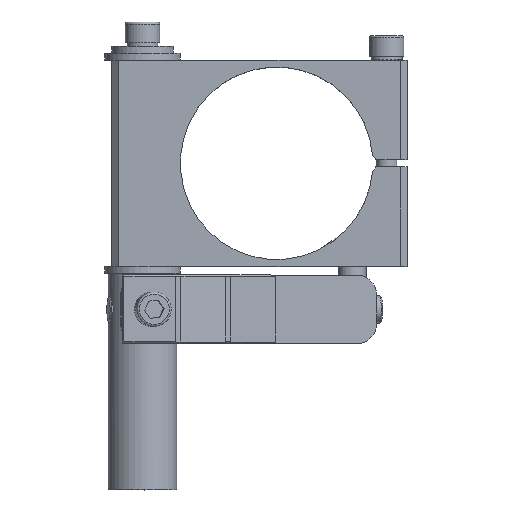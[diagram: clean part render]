
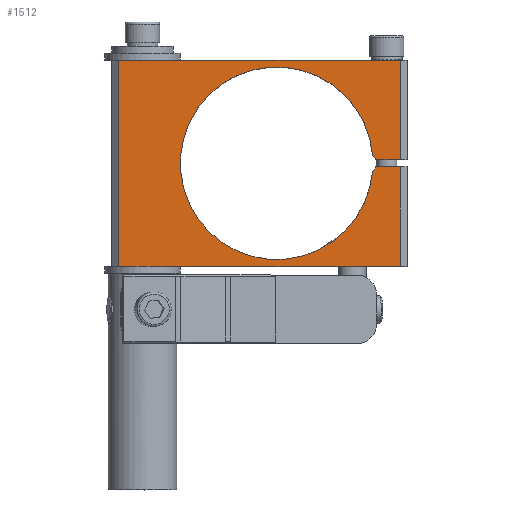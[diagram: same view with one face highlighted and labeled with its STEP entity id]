
A CAD part, top view. The second image highlights one B-rep face of the part: STEP entity #1512.
In plain terms, the highlighted planar face has unit normal (0, 0, 1).
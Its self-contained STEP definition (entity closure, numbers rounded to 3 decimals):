
#1512=ADVANCED_FACE('',(#2852),#2853,.T.);
#2852=FACE_OUTER_BOUND('',#4080,.T.);
#2853=PLANE('',#4081);
#4080=EDGE_LOOP('',(#7338,#7339,#7340,#7341,#7342,#7343,#7344,#7345,#7346,#7347));
#4081=AXIS2_PLACEMENT_3D('',#7348,#7349,#7350);
#7338=ORIENTED_EDGE('',*,*,#8562,.F.);
#7339=ORIENTED_EDGE('',*,*,#8549,.F.);
#7340=ORIENTED_EDGE('',*,*,#8574,.T.);
#7341=ORIENTED_EDGE('',*,*,#8604,.F.);
#7342=ORIENTED_EDGE('',*,*,#8584,.T.);
#7343=ORIENTED_EDGE('',*,*,#8612,.F.);
#7344=ORIENTED_EDGE('',*,*,#8567,.T.);
#7345=ORIENTED_EDGE('',*,*,#8555,.T.);
#7346=ORIENTED_EDGE('',*,*,#8591,.F.);
#7347=ORIENTED_EDGE('',*,*,#8624,.F.);
#7348=CARTESIAN_POINT('',(43.0,30.0,20.0));
#7349=DIRECTION('',(0.0,0.0,1.0));
#7350=DIRECTION('',(1.0,0.0,0.0));
#8549=EDGE_CURVE('',#10403,#10405,#10406,.T.);
#8555=EDGE_CURVE('',#10416,#10414,#10417,.T.);
#8562=EDGE_CURVE('',#10405,#10427,#10428,.T.);
#8567=EDGE_CURVE('',#10435,#10416,#10436,.T.);
#8574=EDGE_CURVE('',#10403,#10445,#10446,.T.);
#8584=EDGE_CURVE('',#10463,#10460,#10464,.T.);
#8591=EDGE_CURVE('',#10472,#10414,#10474,.T.);
#8604=EDGE_CURVE('',#10463,#10445,#10493,.T.);
#8612=EDGE_CURVE('',#10435,#10460,#10503,.T.);
#8624=EDGE_CURVE('',#10427,#10472,#10516,.T.);
#10403=VERTEX_POINT('',#13653);
#10405=VERTEX_POINT('',#13656);
#10406=LINE('',#13657,#13658);
#10414=VERTEX_POINT('',#13668);
#10416=VERTEX_POINT('',#13671);
#10417=LINE('',#13672,#13673);
#10427=VERTEX_POINT('',#13694);
#10428=CIRCLE('',#13695,3.0);
#10435=VERTEX_POINT('',#13704);
#10436=LINE('',#13705,#13706);
#10445=VERTEX_POINT('',#13719);
#10446=LINE('',#13720,#13721);
#10460=VERTEX_POINT('',#13741);
#10463=VERTEX_POINT('',#13745);
#10464=LINE('',#13746,#13747);
#10472=VERTEX_POINT('',#13764);
#10474=CIRCLE('',#13767,3.0);
#10493=LINE('',#13819,#13820);
#10503=LINE('',#13834,#13835);
#10516=CIRCLE('',#13853,28.0);
#13653=CARTESIAN_POINT('',(84.0,31.0,20.0));
#13656=CARTESIAN_POINT('',(76.828,31.0,20.0));
#13657=CARTESIAN_POINT('',(86.0,31.0,20.0));
#13658=VECTOR('',#15329,1.0);
#13668=CARTESIAN_POINT('',(76.828,29.0,20.0));
#13671=CARTESIAN_POINT('',(84.0,29.0,20.0));
#13672=CARTESIAN_POINT('',(86.0,29.0,20.0));
#13673=VECTOR('',#15336,1.0);
#13694=CARTESIAN_POINT('',(75.904,32.318,20.0));
#13695=AXIS2_PLACEMENT_3D('',#15341,#15342,#15343);
#13704=CARTESIAN_POINT('',(84.0,0.0,20.0));
#13705=CARTESIAN_POINT('',(84.0,30.0,20.0));
#13706=VECTOR('',#15349,1.0);
#13719=CARTESIAN_POINT('',(84.0,60.0,20.0));
#13720=CARTESIAN_POINT('',(84.0,30.0,20.0));
#13721=VECTOR('',#15354,1.0);
#13741=CARTESIAN_POINT('',(2.0,0.0,20.0));
#13745=CARTESIAN_POINT('',(2.0,60.0,20.0));
#13746=CARTESIAN_POINT('',(2.0,30.0,20.0));
#13747=VECTOR('',#15362,1.0);
#13764=CARTESIAN_POINT('',(75.904,27.682,20.0));
#13767=AXIS2_PLACEMENT_3D('',#15369,#15370,#15371);
#13819=CARTESIAN_POINT('',(43.0,60.0,20.0));
#13820=VECTOR('',#15387,1.0);
#13834=CARTESIAN_POINT('',(43.0,0.0,20.0));
#13835=VECTOR('',#15395,1.0);
#13853=AXIS2_PLACEMENT_3D('',#15404,#15405,#15406);
#15329=DIRECTION('',(-1.0,0.0,0.0));
#15336=DIRECTION('',(-1.0,0.0,0.0));
#15341=CARTESIAN_POINT('',(74.0,30.0,20.0));
#15342=DIRECTION('',(0.0,0.0,1.0));
#15343=DIRECTION('',(1.0,0.0,0.0));
#15349=DIRECTION('',(0.0,1.0,0.0));
#15354=DIRECTION('',(0.0,1.0,0.0));
#15362=DIRECTION('',(0.0,-1.0,0.0));
#15369=CARTESIAN_POINT('',(74.0,30.0,20.0));
#15370=DIRECTION('',(0.0,0.0,1.0));
#15371=DIRECTION('',(1.0,0.0,0.0));
#15387=DIRECTION('',(1.0,0.0,0.0));
#15395=DIRECTION('',(-1.0,0.0,0.0));
#15404=CARTESIAN_POINT('',(48.0,30.0,20.0));
#15405=DIRECTION('',(0.0,0.0,1.0));
#15406=DIRECTION('',(0.0,-1.0,0.0));
